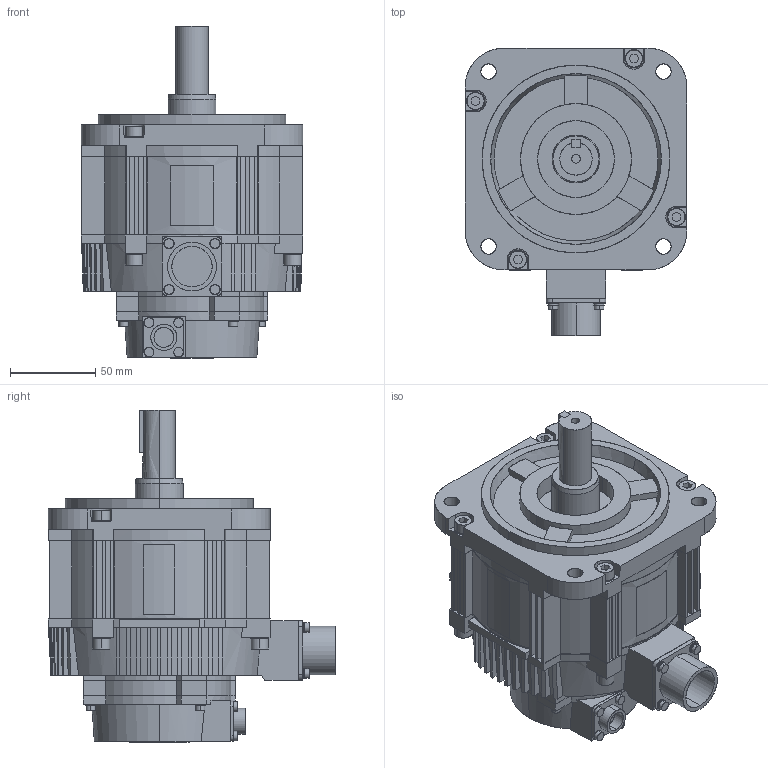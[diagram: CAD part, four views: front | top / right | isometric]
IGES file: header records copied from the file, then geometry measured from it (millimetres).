
Start section: SolidWorks IGES file using analytic representation for surfaces
Global section: file name: C:\YASKAWA\sgmgv_09__a61.IGS; native system: SolidWorks 2006 by SolidWorks Corporation; preprocessor: SolidWorks 2006 by SolidWorks Corporation; author: yamanouchi; date: 090206.151432; units: millimetre
Bounding box: 130 x 168.49 x 194.6 mm (x, y, z)
Surface area: 133605.4 mm2 (no closed solid volume)
Topology: 0 solids, 0 shells, 814 faces, 9216 edges, 9216 vertices
Faces by surface type: bspline 531, revolution 283
